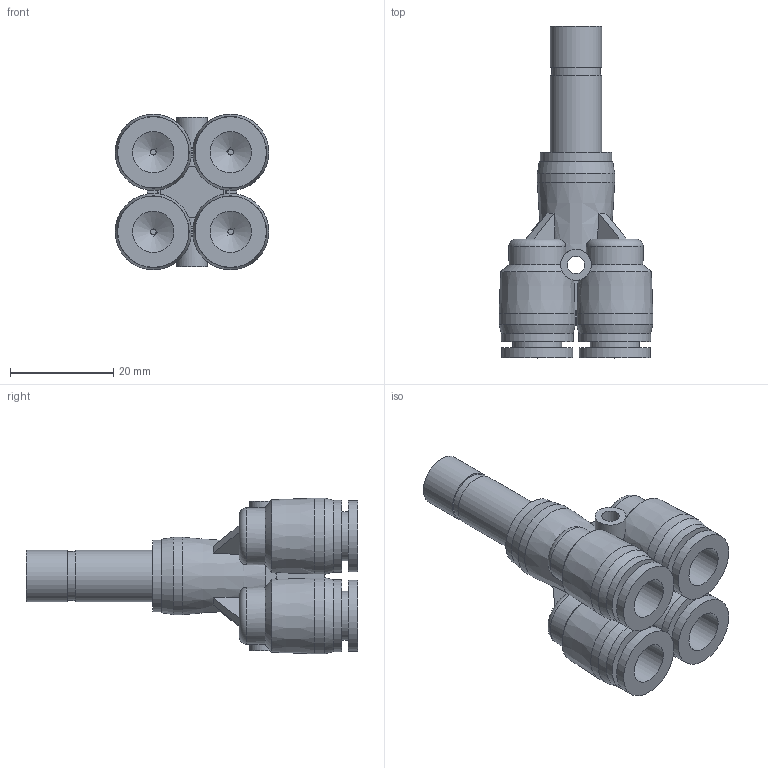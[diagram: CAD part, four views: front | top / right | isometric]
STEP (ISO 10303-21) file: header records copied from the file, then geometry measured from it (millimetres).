
FILE_DESCRIPTION(/* description */ (''),/* implementation_level */ '2;1');
FILE_NAME(/* name */ 'S:\_Tecnico\ArchivioUT\_Disegni3D ingombri\DISEGNI 3D per ingombri\RP\RP 76\RP761008.stp',/* time_stamp */ '2019-09-10T14:22:35+02:00',/* author */ ('ufficiotecnico3'),/* organization */ (''),/* preprocessor_version */ 'ST-DEVELOPER v18',/* originating_system */ 'Autodesk Inventor 2020',/* authorisation */ '');
FILE_SCHEMA (('AUTOMOTIVE_DESIGN { 1 0 10303 214 3 1 1 }'));
Length unit declared in the file: millimetre
Products named in the file (1): RP761008
Bounding box: 29.78 x 64.3 x 30.16 mm (x, y, z)
Volume: 12863.4 mm3; surface area: 10617.9 mm2
Topology: 1 solids, 2 shells, 143 faces, 385 edges, 257 vertices
Faces by surface type: plane 69, cylinder 51, cone 19, torus 4
Full cylindrical faces by diameter (mm): 3.4 x1, 6 x4, 7 x1, 8 x4, 9.5 x5, 10 x2, 13.8 x5, 13.9 x4, 15 x1
Entity records: 4875 total; most frequent: CARTESIAN_POINT 1243, DIRECTION 772, ORIENTED_EDGE 768, EDGE_CURVE 384, AXIS2_PLACEMENT_3D 328, VERTEX_POINT 257, CIRCLE 180, EDGE_LOOP 163
